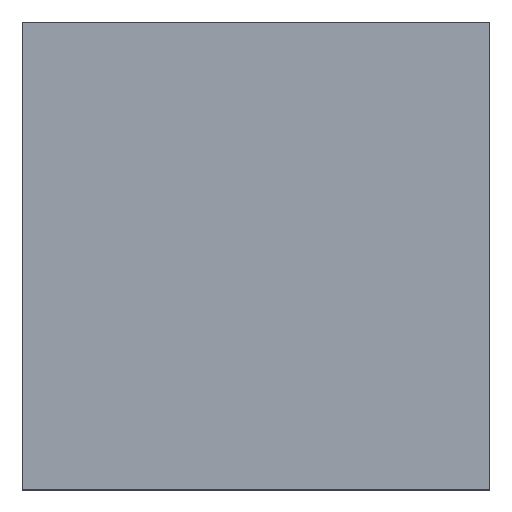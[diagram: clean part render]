
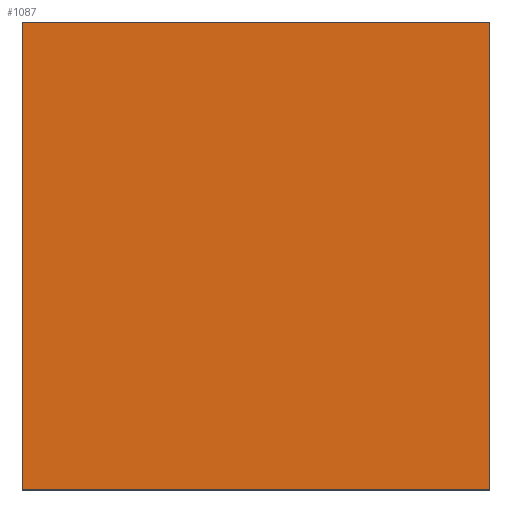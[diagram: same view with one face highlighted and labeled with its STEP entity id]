
A CAD part, top view. The second image highlights one B-rep face of the part: STEP entity #1087.
In plain terms, the highlighted planar face has unit normal (0, 0, 1).
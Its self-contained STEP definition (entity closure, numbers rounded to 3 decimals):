
#3 = DIRECTION ( 'NONE',  ( 0., 1., 0. ) ) ;
#15 = EDGE_CURVE ( 'NONE', #146, #1094, #74, .T. ) ;
#74 = LINE ( 'NONE', #533, #755 ) ;
#146 = VERTEX_POINT ( 'NONE', #1038 ) ;
#210 = VERTEX_POINT ( 'NONE', #1423 ) ;
#230 = CARTESIAN_POINT ( 'NONE',  ( 0., 0., 22.5 ) ) ;
#331 = CARTESIAN_POINT ( 'NONE',  ( 0., 0., 22.5 ) ) ;
#420 = DIRECTION ( 'NONE',  ( -1., 0., 0. ) ) ;
#445 = VECTOR ( 'NONE', #3, 1000. ) ;
#533 = CARTESIAN_POINT ( 'NONE',  ( 0., 104., 22.5 ) ) ;
#568 = CARTESIAN_POINT ( 'NONE',  ( 104., 0., 22.5 ) ) ;
#574 = ORIENTED_EDGE ( 'NONE', *, *, #1408, .T. ) ;
#630 = VERTEX_POINT ( 'NONE', #1173 ) ;
#643 = VECTOR ( 'NONE', #688, 1000. ) ;
#683 = ORIENTED_EDGE ( 'NONE', *, *, #735, .T. ) ;
#688 = DIRECTION ( 'NONE',  ( 1., 0., 0. ) ) ;
#735 = EDGE_CURVE ( 'NONE', #210, #146, #1476, .T. ) ;
#750 = LINE ( 'NONE', #877, #892 ) ;
#755 = VECTOR ( 'NONE', #420, 1000. ) ;
#781 = DIRECTION ( 'NONE',  ( -1., 0., 0. ) ) ;
#877 = CARTESIAN_POINT ( 'NONE',  ( 0., 0., 22.5 ) ) ;
#892 = VECTOR ( 'NONE', #1332, 1000. ) ;
#919 = PLANE ( 'NONE',  #954 ) ;
#954 = AXIS2_PLACEMENT_3D ( 'NONE', #331, #1011, #781 ) ;
#1011 = DIRECTION ( 'NONE',  ( 0., 0., -1. ) ) ;
#1038 = CARTESIAN_POINT ( 'NONE',  ( 104., 104., 22.5 ) ) ;
#1067 = EDGE_LOOP ( 'NONE', ( #574, #1221, #683, #1291 ) ) ;
#1087 = ADVANCED_FACE ( 'NONE', ( #1247 ), #919, .F. ) ;
#1094 = VERTEX_POINT ( 'NONE', #1137 ) ;
#1137 = CARTESIAN_POINT ( 'NONE',  ( 0., 104., 22.5 ) ) ;
#1141 = EDGE_CURVE ( 'NONE', #630, #210, #1260, .T. ) ;
#1173 = CARTESIAN_POINT ( 'NONE',  ( 0., 0., 22.5 ) ) ;
#1221 = ORIENTED_EDGE ( 'NONE', *, *, #1141, .T. ) ;
#1247 = FACE_OUTER_BOUND ( 'NONE', #1067, .T. ) ;
#1260 = LINE ( 'NONE', #230, #643 ) ;
#1291 = ORIENTED_EDGE ( 'NONE', *, *, #15, .T. ) ;
#1332 = DIRECTION ( 'NONE',  ( 0., -1., 0. ) ) ;
#1408 = EDGE_CURVE ( 'NONE', #1094, #630, #750, .T. ) ;
#1423 = CARTESIAN_POINT ( 'NONE',  ( 104., 0., 22.5 ) ) ;
#1476 = LINE ( 'NONE', #568, #445 ) ;
